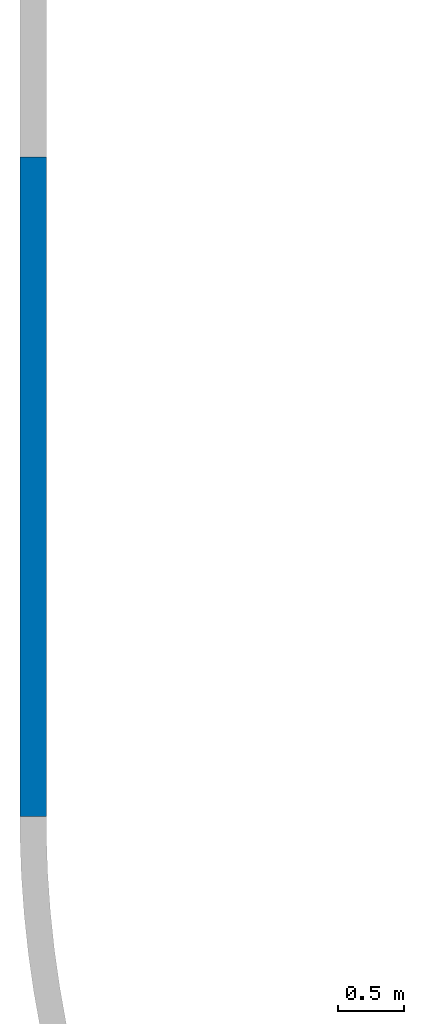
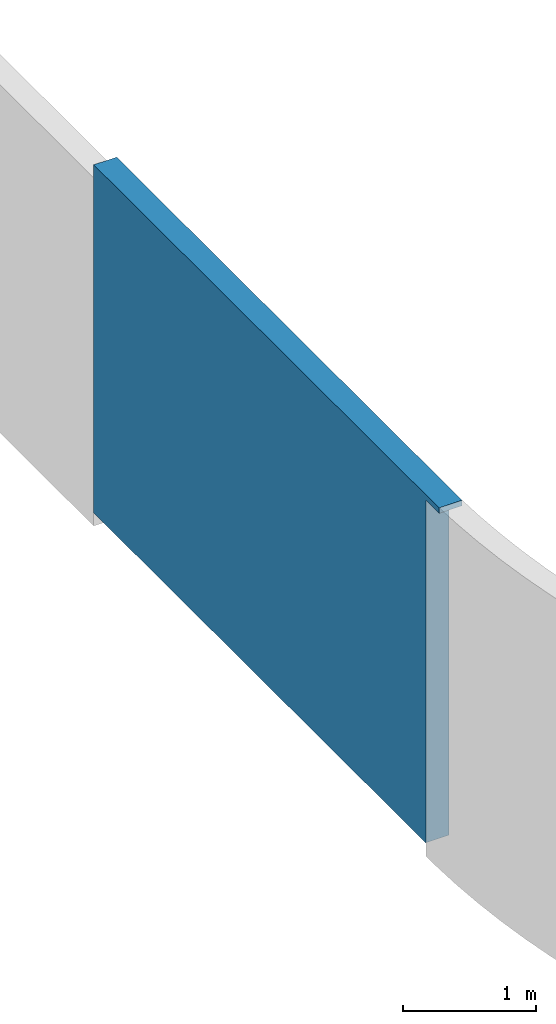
# One storey, part 1 of 3: 1 wall.
"""IFC4 building model written with IfcOpenShell, lengths in millimetres."""

from ifc_helpers import new_model, entity, si_unit, converted_unit, derived_unit, direction, frame, origin_with_axes, place, context, subcontext, project, spatial, polygons, material, constituent, constituent_set, type_object, element, save


model = new_model("IFC4")

# Units and contexts
model_context = context("Model", 3, precision=0.01, world=origin_with_axes(), true_north=direction((0.0, 1.0)))
body_context = subcontext(model_context, "Body", "Model", "MODEL_VIEW")
ifc_project = project(units=[si_unit("LENGTHUNIT", "METRE", prefix="MILLI"), si_unit("AREAUNIT", "SQUARE_METRE"), si_unit("VOLUMEUNIT", "CUBIC_METRE"), converted_unit("PLANEANGLEUNIT", "DEGREE", entity("IfcPlaneAngleMeasure", 0.0174532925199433), si_unit("PLANEANGLEUNIT", "RADIAN"), dimensions=[0, 0, 0, 0, 0, 0, 0]), converted_unit("TIMEUNIT", "Year", entity("IfcTimeMeasure", 31557600.0), si_unit("TIMEUNIT", "SECOND"), dimensions=[0, 0, 1, 0, 0, 0, 0]), si_unit("MASSUNIT", "GRAM", prefix="KILO"), si_unit("THERMODYNAMICTEMPERATUREUNIT", "DEGREE_CELSIUS"), si_unit("LUMINOUSINTENSITYUNIT", "LUMEN"), si_unit("ENERGYUNIT", "JOULE", prefix="MEGA"), derived_unit("THERMALCONDUCTANCEUNIT", [(si_unit("POWERUNIT", "WATT"), 1), (si_unit("LENGTHUNIT", "METRE"), -1), (si_unit("THERMODYNAMICTEMPERATUREUNIT", "KELVIN"), -1)]), derived_unit("SPECIFICHEATCAPACITYUNIT", [(si_unit("ENERGYUNIT", "JOULE"), 1), (si_unit("MASSUNIT", "GRAM", prefix="KILO"), -1), (si_unit("THERMODYNAMICTEMPERATUREUNIT", "KELVIN"), -1)]), derived_unit("MASSDENSITYUNIT", [(si_unit("MASSUNIT", "GRAM", prefix="KILO"), 1), (si_unit("VOLUMEUNIT", "CUBIC_METRE"), -1)])], contexts=[model_context])

# Site, building, storey
site_placement = place(None, origin_with_axes())
site = spatial("IfcSite", under=ifc_project, at=site_placement, Name="Exteriér", CompositionType="ELEMENT")
building_placement = place(site_placement, origin_with_axes())
building = spatial("IfcBuilding", under=site, at=building_placement, Name="Univerzitní lezecké centrum", CompositionType="ELEMENT")
storey_placement = place(building_placement, frame((0.0, 0.0, 6400.0), z_axis=(0.0, 0.0, 1.0), x_axis=(1.0, 0.0, 0.0)))
storey = spatial("IfcBuildingStorey", under=building, at=storey_placement, Name="3.NP", CompositionType="ELEMENT", Elevation=6400.0)

# Wall
ifc_material = material(Name="Tepelná izolace - minerální vata - obvodová izolace")
ifc_constituent = constituent(ifc_material, Name="Tepelná izolace - minerální vata - obvodová izolace")
ifc_constituent_set = constituent_set(constituents=[ifc_constituent], Name="Obvodová tepelná izolace")
wall_type = type_object("IfcWallType", Name="Obvodová tepelná izolace 200", PredefinedType="NOTDEFINED")
wall_placement = place(storey_placement, frame((-5750.148351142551, 4700.000000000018, 0.0), z_axis=(0.0, 0.0, 1.0), x_axis=(0.0, -1.0, 0.0)))
element("IfcWall", 1, at=wall_placement, inside=storey, type_object=wall_type, material=ifc_constituent_set, Name="St01", PredefinedType="NOTDEFINED", context=body_context, shape_type="Tessellation", body=[
    polygons([(0.0, -200.0000000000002, 3200.000000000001), (5200.000000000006, -200.000000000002, 3200.000000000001), (5200.000000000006, 0.0, 3200.000000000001), (0.0, 0.0, 3200.000000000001), (5000.000000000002, -200.0000000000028, 3149.000000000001), (5200.000000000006, -200.0000000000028, 3149.000000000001), (0.0, -200.0000000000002, 0.0), (5000.000000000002, -200.0000000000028, 0.0), (5200.000000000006, -1.309813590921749e-05, 3149.000000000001), (5000.000000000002, -1.309813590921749e-05, 3149.000000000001), (5000.000000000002, -1.309813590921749e-05, 0.0), (0.0, 0.0, 0.0)], [[[1, 2, 3, 4]], [[5, 6, 2, 1, 7, 8]], [[6, 9, 3, 2]], [[4, 3, 9, 10, 11, 12]], [[1, 4, 12, 7]], [[10, 9, 6, 5]], [[12, 11, 8, 7]], [[8, 11, 10, 5]]], closed=True),
])

save(model, "model.ifc")
